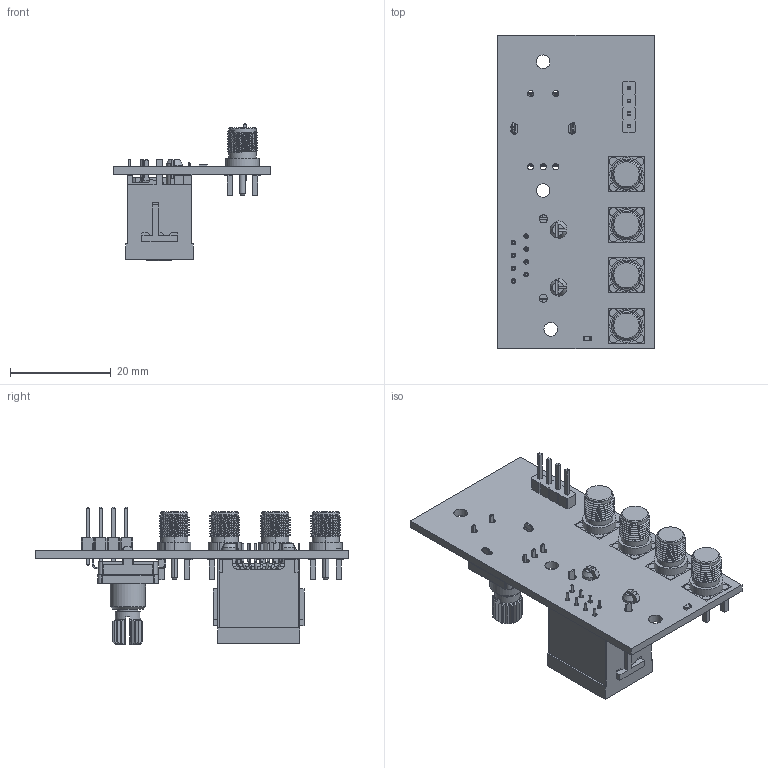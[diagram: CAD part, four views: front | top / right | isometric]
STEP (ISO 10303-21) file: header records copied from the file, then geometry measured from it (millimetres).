
FILE_DESCRIPTION(('KiCad electronic assembly'),'2;1');
FILE_NAME('MEAS-RJ45-ENCODER.step','2024-08-19T10:23:02',('Pcbnew'),( 'Kicad'),'Open CASCADE STEP processor 7.7','KiCad to STEP converter' ,'Unknown');
FILE_SCHEMA(('AUTOMOTIVE_DESIGN { 1 0 10303 214 1 1 1 1 }'));
Length unit declared in the file: millimetre
Products named in the file (12): MEAS-RJ45-ENCODER 1; 901-144-8RFX; R_0603_1608Metric; 100616-1; C-100616-1; PinHeader_1x04_P2.54mm_Vertical; PinHeader_1x04_P254mm_Vertical; PCL; EC11E12-15P30C-SW; MEAS-RJ45-ENCODER_PCB
Assembly tree (14 placements, depth 3):
  MEAS-RJ45-ENCODER 1
    901-144-8RFX  x4
      901-144-8RFX
    R_0603_1608Metric
      R_0603_1608Metric
    100616-1
      C-100616-1
    PinHeader_1x04_P2.54mm_Vertical
      PinHeader_1x04_P254mm_Vertical
    PCL
      EC11E12-15P30C-SW
    MEAS-RJ45-ENCODER_PCB
Bounding box: 31 x 62 x 27.14 mm (x, y, z)
Volume: 6858.5 mm3; surface area: 9497.8 mm2
Topology: 9 solids, 9 shells, 1199 faces, 3125 edges, 1985 vertices
Faces by surface type: plane 665, cylinder 351, bspline 78, cone 63, torus 38, sphere 4
Full cylindrical faces by diameter (mm): 0.9 x8, 1 x4, 1.194 x5, 1.5 x4, 1.6 x2, 1.7 x16, 2.7 x3, 3.25 x2, 4 x1, 5 x1, 7 x1
Entity records: 37712 total; most frequent: CARTESIAN_POINT 10233, ORIENTED_EDGE 5140, DIRECTION 4769, EDGE_CURVE 2570, LINE 1663, VECTOR 1663, VERTEX_POINT 1619, AXIS2_PLACEMENT_3D 1553
